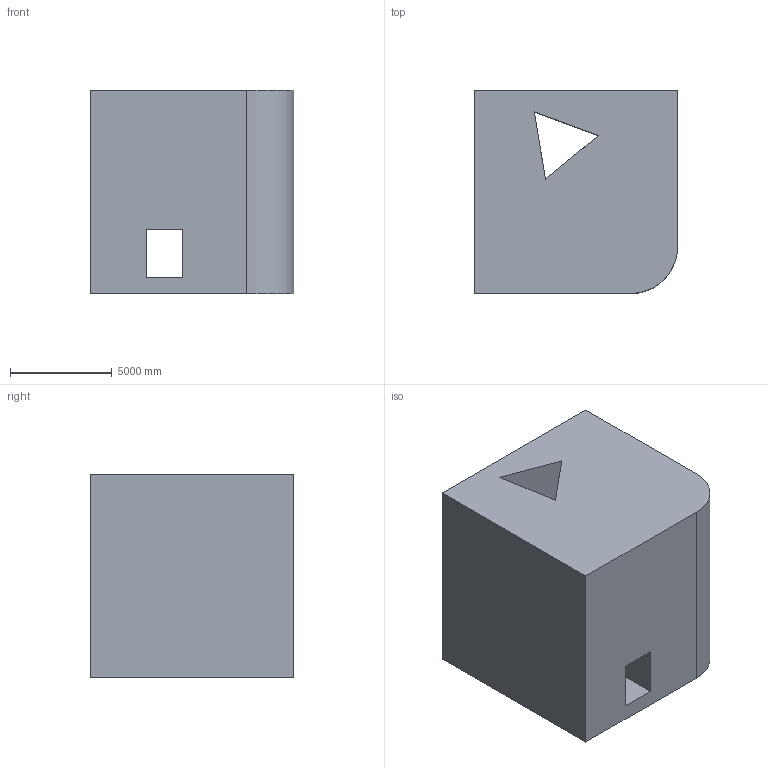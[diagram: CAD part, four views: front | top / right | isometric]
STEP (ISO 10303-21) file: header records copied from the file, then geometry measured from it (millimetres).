
FILE_DESCRIPTION (( 'STEP AP203' ), '1' );
FILE_NAME ('277.STEP', '2022-09-07T12:34:34', ( 'user' ), ( '' ), 'SwSTEP 2.0', 'SolidWorks 2021', '' );
FILE_SCHEMA (( 'CONFIG_CONTROL_DESIGN' ));
Length unit declared in the file: centimetre
Products named in the file (1): 277
Bounding box: 10000 x 10000 x 10000 mm (x, y, z)
Volume: 875095784998.6 mm3; surface area: 736053568 mm2
Topology: 1 solids, 1 shells, 23 faces, 66 edges, 44 vertices
Faces by surface type: plane 19, cylinder 4
Entity records: 841 total; most frequent: CARTESIAN_POINT 134, ORIENTED_EDGE 132, DIRECTION 126, EDGE_CURVE 66, VECTOR 54, LINE 54, VERTEX_POINT 44, AXIS2_PLACEMENT_3D 36
